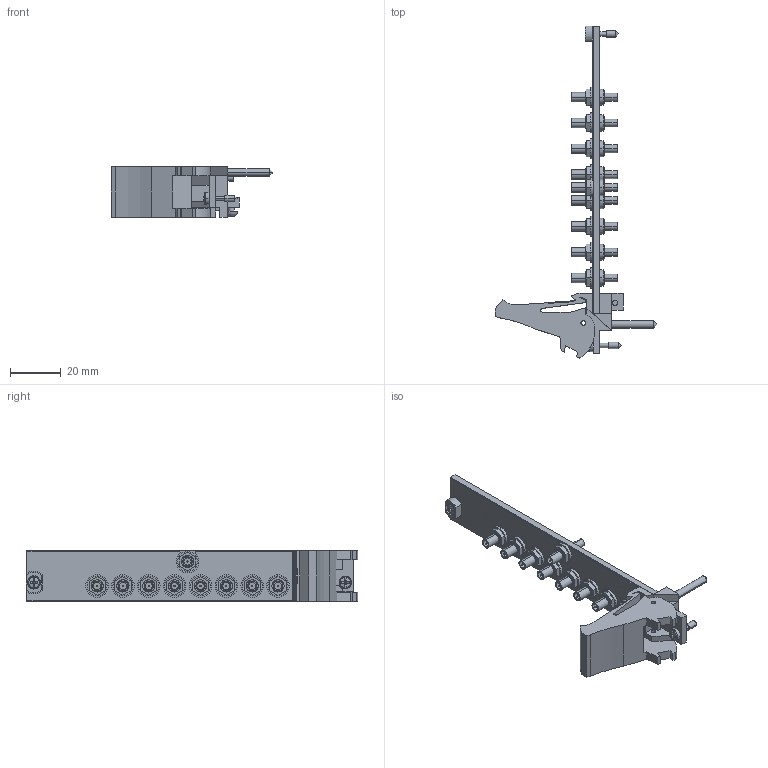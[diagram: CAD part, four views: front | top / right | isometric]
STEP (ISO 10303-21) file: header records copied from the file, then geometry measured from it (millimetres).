
FILE_DESCRIPTION((''),'2;1');
FILE_NAME('CU_PXI-2557','2009-10-05T',('jjorden'),(''),'PRO/ENGINEER BY PARAMETRIC TECHNOLOGY CORPORATION, 2006080','PRO/ENGINEER BY PARAMETRIC TECHNOLOGY CORPORATION, 2006080','');
FILE_SCHEMA(('CONFIG_CONTROL_DESIGN'));
Length unit declared in the file: inch
Products named in the file (1): CU_PXI-2557
Bounding box: 63.53 x 130.5 x 20.02 mm (x, y, z)
Volume: 16218.7 mm3; surface area: 16311.9 mm2
Topology: 1 solids, 1 shells, 694 faces, 1602 edges, 1032 vertices
Faces by surface type: plane 400, cylinder 242, cone 32, sphere 8, torus 6, bspline 6
Entity records: 20143 total; most frequent: CARTESIAN_POINT 3840, DIRECTION 3515, ORIENTED_EDGE 3188, EDGE_CURVE 1594, AXIS2_PLACEMENT_3D 1264, VERTEX_POINT 1051, VECTOR 987, LINE 987
